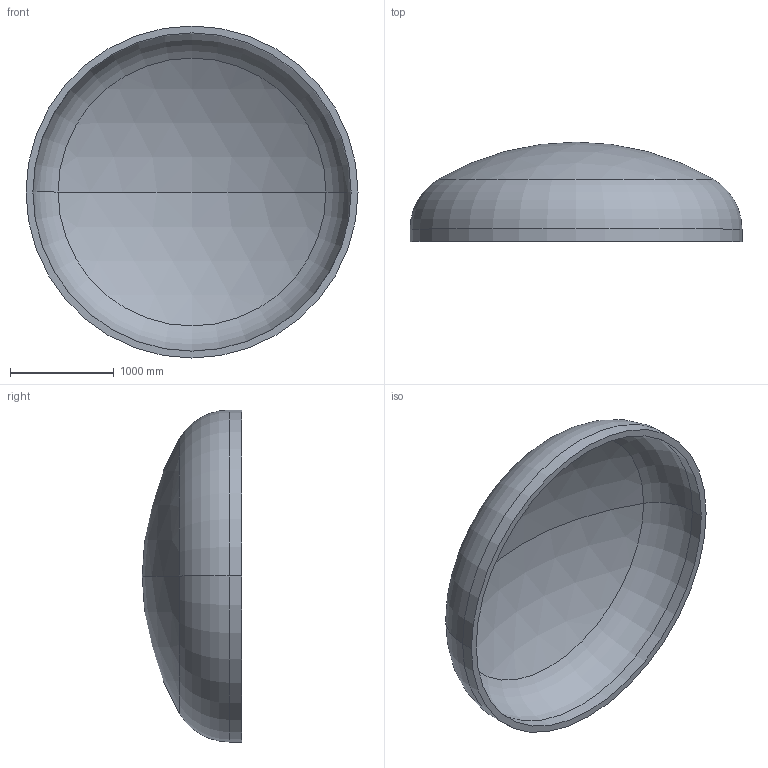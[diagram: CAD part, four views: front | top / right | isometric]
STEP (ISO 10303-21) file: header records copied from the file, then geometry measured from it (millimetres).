
FILE_DESCRIPTION (( 'STEP AP203' ), '1' );
FILE_NAME ('DIN 28013 Korbbogenform_-_Boden DIN 28013 - 3200 x 120 - I - s=66.step', '2016-07-01T18:47:39', ( '' ), ( '' ), 'SwSTEP 2.0', 'SolidWorks 2013', '' );
FILE_SCHEMA (( 'CONFIG_CONTROL_DESIGN' ));
Length unit declared in the file: millimetre
Products named in the file (1): DIN 28013 Korbbogenform_-_Boden DIN 28013 - 3200 x 120 - I - s=66
Bounding box: 3200 x 958.55 x 3200 mm (x, y, z)
Volume: 792641374 mm3; surface area: 24678370.1 mm2
Topology: 1 solids, 1 shells, 13 faces, 24 edges, 14 vertices
Faces by surface type: torus 4, cylinder 4, sphere 4, plane 1
Entity records: 407 total; most frequent: DIRECTION 72, CARTESIAN_POINT 52, ORIENTED_EDGE 48, AXIS2_PLACEMENT_3D 34, EDGE_CURVE 24, CIRCLE 20, EDGE_LOOP 14, VERTEX_POINT 14
